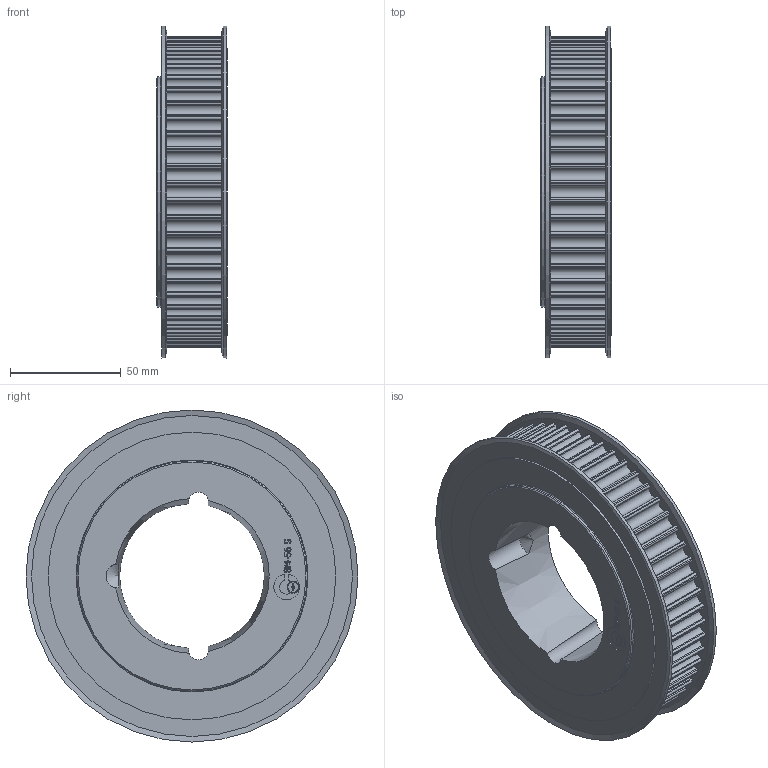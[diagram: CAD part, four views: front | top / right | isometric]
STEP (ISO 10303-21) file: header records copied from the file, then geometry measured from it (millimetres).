
FILE_DESCRIPTION(/* description */ ('PUL. POLY-CH.GT-8M-56S-21F TL'),/* implementation_level */ '2;1');
FILE_NAME(/* name */ '48621056.stp',/* time_stamp */ '2023-06-08T09:06:57+02:00',/* author */ ('Paolo.Silvestro'),/* organization */ (''),/* preprocessor_version */ 'ST-DEVELOPER v19.2',/* originating_system */ 'Autodesk Inventor 2023',/* authorisation */ '');
FILE_SCHEMA (('CONFIG_CONTROL_DESIGN'));
Length unit declared in the file: millimetre
Products named in the file (3): 48621056; 48621056_1; FLANGIA_85
Assembly tree (3 placements, depth 2):
  48621056
    48621056_1
    FLANGIA_85  x2
Bounding box: 32 x 150 x 150 mm (x, y, z)
Volume: 346909.9 mm3; surface area: 68919.4 mm2
Topology: 3 solids, 3 shells, 562 faces, 1621 edges, 1079 vertices
Faces by surface type: cylinder 274, plane 212, bspline 67, cone 8, torus 1
Full cylindrical faces by diameter (mm): 0.965 x1, 104 x1, 130 x4, 150 x2
Entity records: 19339 total; most frequent: CARTESIAN_POINT 4376, ORIENTED_EDGE 3220, DIRECTION 3017, EDGE_CURVE 1610, VERTEX_POINT 1073, AXIS2_PLACEMENT_3D 1053, LINE 911, VECTOR 911
